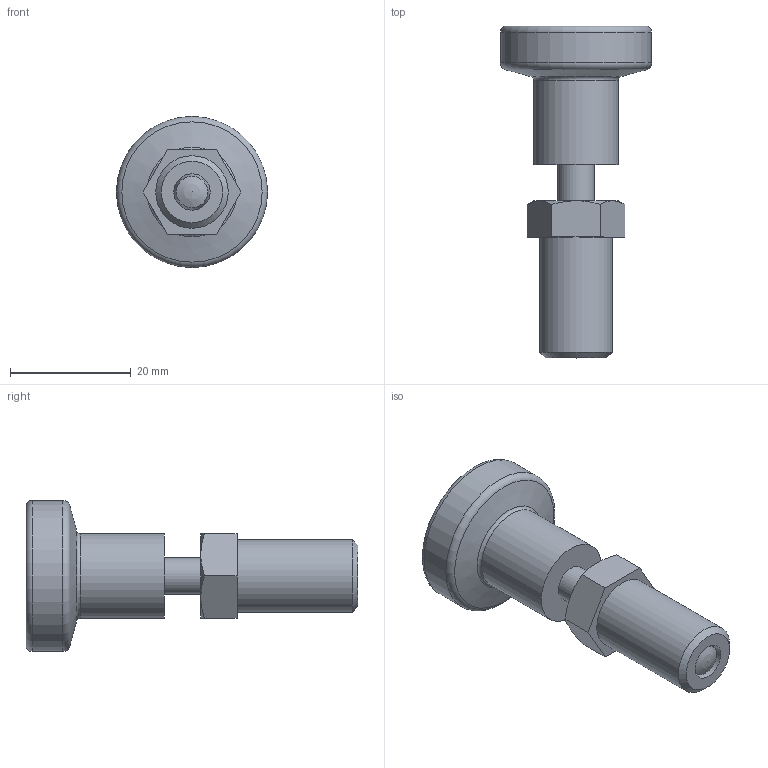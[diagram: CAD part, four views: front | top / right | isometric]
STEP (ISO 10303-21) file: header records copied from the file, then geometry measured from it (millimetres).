
FILE_DESCRIPTION( ( 'STEP AP203' ), '1' );
FILE_NAME( 'C:/Temp/Ganter_Step_05_03_2020/data/3_1/gn617_n/gn617n_an/Stainless Steel Indexing plunger GN 617-6-AN-NI (activated).stp', '2020-03-12T08:43:04', ( 'License CC BY-ND 4.0' ), ( 'CADENAS' ), ' ', 'PARTsolutions', ' ' );
FILE_SCHEMA( ( 'CONFIG_CONTROL_DESIGN' ) );
Length unit declared in the file: millimetre
Products named in the file (3): Stainless Steel Indexing plunger GN 617-6-AN-NI (activated); _STAINLESS STEEL - Indexing plunger GN 617-6-AN-NI-2; _Indexing plunger GN 617-6-AN-NI (1)-1
Assembly tree (2 placements, depth 2):
  Stainless Steel Indexing plunger GN 617-6-AN-NI (activated)
    _STAINLESS STEEL - Indexing plunger GN 617-6-AN-NI-2
    _Indexing plunger GN 617-6-AN-NI (1)-1
Bounding box: 25 x 54.9 x 25 mm (x, y, z)
Volume: 9088.4 mm3; surface area: 4821 mm2
Topology: 2 solids, 2 shells, 38 faces, 74 edges, 45 vertices
Faces by surface type: plane 15, cone 9, cylinder 9, torus 3, bspline 1, sphere 1
Full cylindrical faces by diameter (mm): 6 x4, 10 x2, 12 x1, 13.99 x1, 25 x1
Entity records: 1039 total; most frequent: CARTESIAN_POINT 234, DIRECTION 152, ORIENTED_EDGE 108, AXIS2_PLACEMENT_3D 70, EDGE_LOOP 62, EDGE_CURVE 54, FACE_OUTER_BOUND 50, VERTEX_POINT 44
